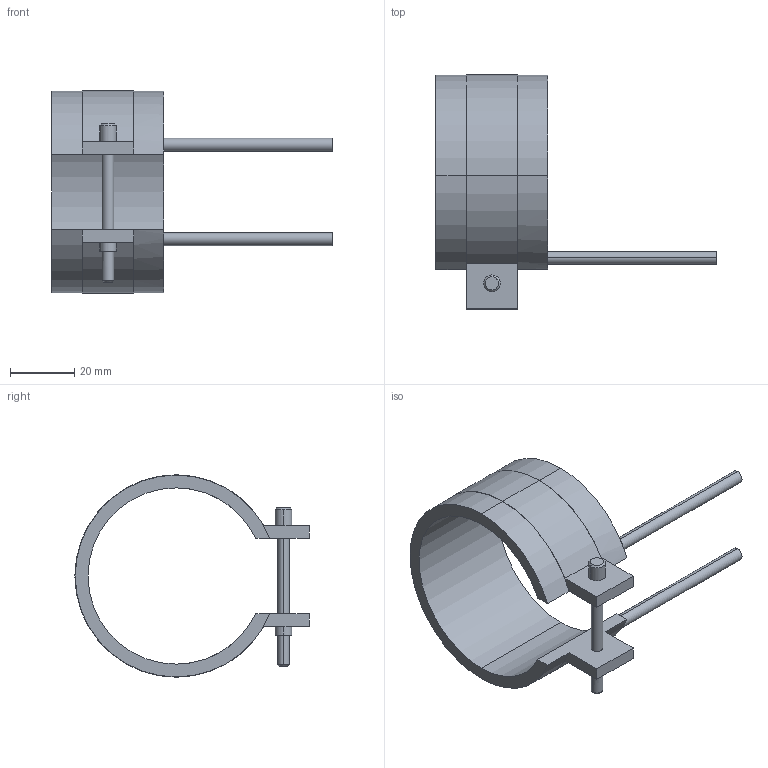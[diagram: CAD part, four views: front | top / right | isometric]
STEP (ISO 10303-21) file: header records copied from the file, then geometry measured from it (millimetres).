
FILE_DESCRIPTION(('CATIA V5 STEP Exchange'),'2;1');
FILE_NAME('C:\Users\Utente\Desktop\IO LAVORO\3D X SITO CF\X SITO\PLASTICA\RF2\14055035.stp','2021-04-01T09:35:03+00:00',('none'),('none'),'CATIA Version 5 Release 20 GA (IN-10)','CATIA V5 STEP AP203','none');
FILE_SCHEMA(('CONFIG_CONTROL_DESIGN'));
Length unit declared in the file: millimetre
Products named in the file (1): 14055035
Bounding box: 87.5 x 73.1 x 63.2 mm (x, y, z)
Volume: 26362.2 mm3; surface area: 15768.2 mm2
Topology: 1 solids, 1 shells, 45 faces, 116 edges, 76 vertices
Faces by surface type: cylinder 24, plane 17, cone 4
Entity records: 1400 total; most frequent: CARTESIAN_POINT 274, ORIENTED_EDGE 232, DIRECTION 196, EDGE_CURVE 116, AXIS2_PLACEMENT_3D 104, VERTEX_POINT 76, CIRCLE 62, VECTOR 52
